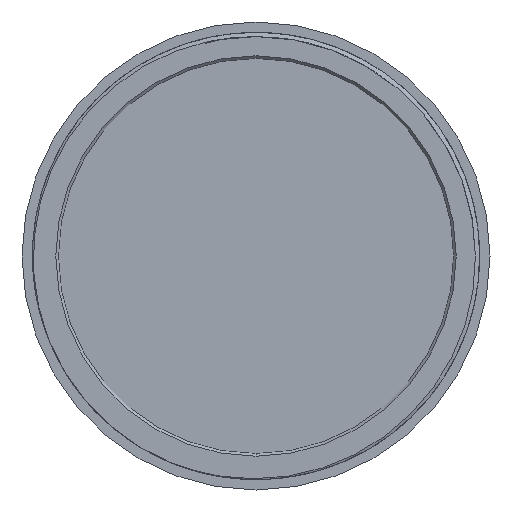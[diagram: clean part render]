
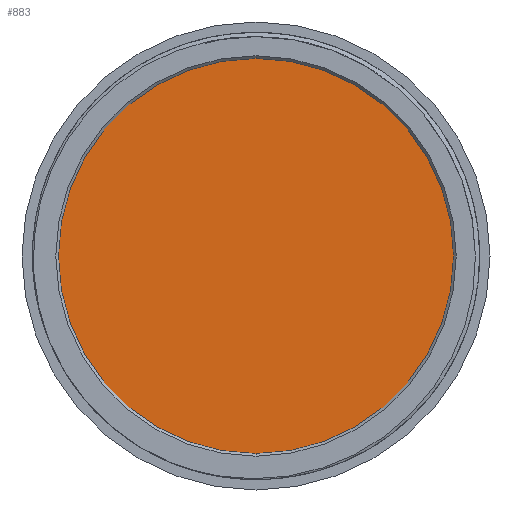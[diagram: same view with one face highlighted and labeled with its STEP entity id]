
A CAD part, front view. The second image highlights one B-rep face of the part: STEP entity #883.
In plain terms, the highlighted planar face has unit normal (0, -1, 0).
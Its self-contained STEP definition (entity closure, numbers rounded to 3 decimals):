
#93 = AXIS2_PLACEMENT_3D ( 'NONE', #3207, #649, #2159 ) ;
#230 = FACE_OUTER_BOUND ( 'NONE', #2263, .T. ) ;
#482 = ORIENTED_EDGE ( 'NONE', *, *, #2516, .F. ) ;
#574 = CIRCLE ( 'NONE', #2614, 19.75 ) ;
#620 = ORIENTED_EDGE ( 'NONE', *, *, #3067, .F. ) ;
#649 = DIRECTION ( 'NONE',  ( 0., 1., 0. ) ) ;
#883 = ADVANCED_FACE ( 'NONE', ( #230 ), #2999, .F. ) ;
#1030 = DIRECTION ( 'NONE',  ( 0., 0., 1. ) ) ;
#1248 = CIRCLE ( 'NONE', #93, 19.75 ) ;
#1487 = VERTEX_POINT ( 'NONE', #2403 ) ;
#1735 = DIRECTION ( 'NONE',  ( 0., 1., 0. ) ) ;
#1978 = AXIS2_PLACEMENT_3D ( 'NONE', #2744, #2234, #1987 ) ;
#1987 = DIRECTION ( 'NONE',  ( 0., 0., 1. ) ) ;
#2159 = DIRECTION ( 'NONE',  ( 0., 0., 1. ) ) ;
#2234 = DIRECTION ( 'NONE',  ( 0., 1., 0. ) ) ;
#2263 = EDGE_LOOP ( 'NONE', ( #620, #482 ) ) ;
#2281 = CARTESIAN_POINT ( 'NONE',  ( 0., 2.3, 0. ) ) ;
#2403 = CARTESIAN_POINT ( 'NONE',  ( 0., 2.3, 19.75 ) ) ;
#2516 = EDGE_CURVE ( 'NONE', #1487, #2769, #1248, .T. ) ;
#2614 = AXIS2_PLACEMENT_3D ( 'NONE', #2281, #1735, #1030 ) ;
#2744 = CARTESIAN_POINT ( 'NONE',  ( 0., 2.3, 0. ) ) ;
#2769 = VERTEX_POINT ( 'NONE', #3218 ) ;
#2999 = PLANE ( 'NONE',  #1978 ) ;
#3067 = EDGE_CURVE ( 'NONE', #2769, #1487, #574, .T. ) ;
#3207 = CARTESIAN_POINT ( 'NONE',  ( 0., 2.3, 0. ) ) ;
#3218 = CARTESIAN_POINT ( 'NONE',  ( 0., 2.3, -19.75 ) ) ;
